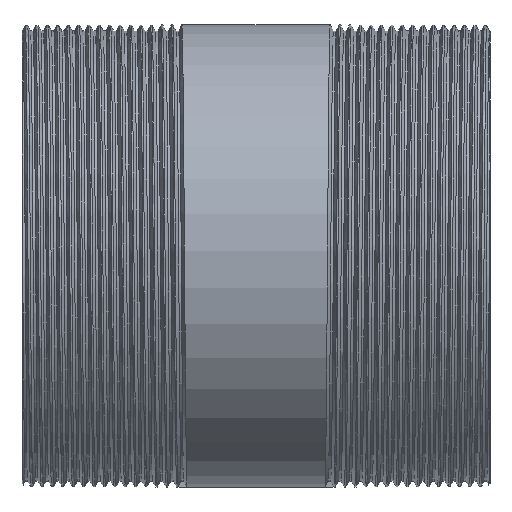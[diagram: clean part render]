
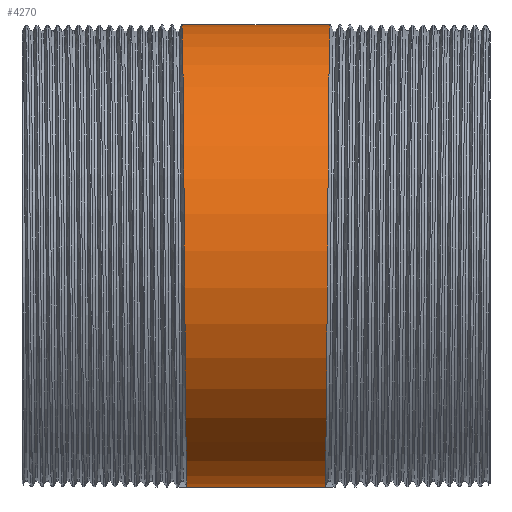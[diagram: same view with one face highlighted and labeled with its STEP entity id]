
A CAD part, front view. The second image highlights one B-rep face of the part: STEP entity #4270.
In plain terms, the highlighted cylindrical face has radius 44.45 mm (diameter 88.9 mm), a partial arc.
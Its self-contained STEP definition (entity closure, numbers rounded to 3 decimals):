
#500 = FACE_OUTER_BOUND ( 'NONE', #11437, .T. ) ;
#592 = CARTESIAN_POINT ( 'NONE',  ( 13.45, -26.127, -35.961 ) ) ;
#1292 = CARTESIAN_POINT ( 'NONE',  ( -13.85, -42.274, 13.736 ) ) ;
#1616 = CARTESIAN_POINT ( 'NONE',  ( -13.25, 0., -44.45 ) ) ;
#1781 = CARTESIAN_POINT ( 'NONE',  ( 14.05, -26.127, 35.961 ) ) ;
#1886 = DIRECTION ( 'NONE',  ( -1., 0., 0. ) ) ;
#2789 = ORIENTED_EDGE ( 'NONE', *, *, #5190, .T. ) ;
#2944 =( BOUNDED_CURVE ( )  B_SPLINE_CURVE ( 2, ( #9250, #12074, #592, #4301, #8147, #13092, #10733, #13254, #1781, #6658, #15694 ),
 .UNSPECIFIED., .F., .F. ) 
 B_SPLINE_CURVE_WITH_KNOTS ( ( 3, 2, 2, 2, 2, 3 ),
 ( 0., 0.006, 0.011, 0.017, 0.022, 0.028 ),
 .UNSPECIFIED. ) 
 CURVE ( )  GEOMETRIC_REPRESENTATION_ITEM ( )  RATIONAL_B_SPLINE_CURVE ( ( 1., 0.951, 1., 0.951, 1., 0.951, 1., 0.951, 1., 0.951, 1. ) ) 
 REPRESENTATION_ITEM ( '' )  );
#3106 = CYLINDRICAL_SURFACE ( 'NONE', #13884, 44.45 ) ;
#3183 = DIRECTION ( 'NONE',  ( -1., 0., 0. ) ) ;
#3377 = CARTESIAN_POINT ( 'NONE',  ( -149.494, 0., 44.45 ) ) ;
#3423 = DIRECTION ( 'NONE',  ( -1., 0., 0. ) ) ;
#3891 = CARTESIAN_POINT ( 'NONE',  ( -13.35, -14.443, -44.45 ) ) ;
#4140 = CARTESIAN_POINT ( 'NONE',  ( -14.25, 0., 44.45 ) ) ;
#4270 = ADVANCED_FACE ( 'NONE', ( #500 ), #3106, .T. ) ;
#4301 = CARTESIAN_POINT ( 'NONE',  ( 13.55, -37.811, -27.472 ) ) ;
#4847 = ORIENTED_EDGE ( 'NONE', *, *, #9976, .F. ) ;
#5190 = EDGE_CURVE ( 'NONE', #13774, #8443, #2944, .T. ) ;
#5211 =( BOUNDED_CURVE ( )  B_SPLINE_CURVE ( 2, ( #1616, #3891, #6730, #8921, #10332, #15451, #1292, #15613, #13012, #6656, #4140 ),
 .UNSPECIFIED., .F., .T. ) 
 B_SPLINE_CURVE_WITH_KNOTS ( ( 3, 2, 2, 2, 2, 3 ),
 ( 0., 0.006, 0.011, 0.017, 0.022, 0.028 ),
 .UNSPECIFIED. ) 
 CURVE ( )  GEOMETRIC_REPRESENTATION_ITEM ( )  RATIONAL_B_SPLINE_CURVE ( ( 1., 0.951, 1., 0.951, 1., 0.951, 1., 0.951, 1., 0.951, 1. ) ) 
 REPRESENTATION_ITEM ( '' )  );
#5651 = VERTEX_POINT ( 'NONE', #13050 ) ;
#6504 = VECTOR ( 'NONE', #1886, 1000. ) ;
#6656 = CARTESIAN_POINT ( 'NONE',  ( -14.15, -14.443, 44.45 ) ) ;
#6658 = CARTESIAN_POINT ( 'NONE',  ( 14.15, -14.443, 44.45 ) ) ;
#6730 = CARTESIAN_POINT ( 'NONE',  ( -13.45, -26.127, -35.961 ) ) ;
#7076 = LINE ( 'NONE', #3377, #6504 ) ;
#7208 = CARTESIAN_POINT ( 'NONE',  ( -149.494, 0., 0. ) ) ;
#8147 = CARTESIAN_POINT ( 'NONE',  ( 13.65, -42.274, -13.736 ) ) ;
#8443 = VERTEX_POINT ( 'NONE', #12235 ) ;
#8889 = LINE ( 'NONE', #15164, #11803 ) ;
#8921 = CARTESIAN_POINT ( 'NONE',  ( -13.55, -37.811, -27.472 ) ) ;
#9186 = CARTESIAN_POINT ( 'NONE',  ( -13.25, 0., -44.45 ) ) ;
#9250 = CARTESIAN_POINT ( 'NONE',  ( 13.25, 0., -44.45 ) ) ;
#9700 = ORIENTED_EDGE ( 'NONE', *, *, #14279, .F. ) ;
#9718 = DIRECTION ( 'NONE',  ( 0., 0., 1. ) ) ;
#9976 = EDGE_CURVE ( 'NONE', #13774, #12848, #8889, .T. ) ;
#10332 = CARTESIAN_POINT ( 'NONE',  ( -13.65, -42.274, -13.736 ) ) ;
#10733 = CARTESIAN_POINT ( 'NONE',  ( 13.85, -42.274, 13.736 ) ) ;
#11437 = EDGE_LOOP ( 'NONE', ( #4847, #2789, #13286, #9700 ) ) ;
#11803 = VECTOR ( 'NONE', #3423, 1000. ) ;
#12074 = CARTESIAN_POINT ( 'NONE',  ( 13.35, -14.443, -44.45 ) ) ;
#12235 = CARTESIAN_POINT ( 'NONE',  ( 14.25, 0., 44.45 ) ) ;
#12848 = VERTEX_POINT ( 'NONE', #9186 ) ;
#13012 = CARTESIAN_POINT ( 'NONE',  ( -14.05, -26.127, 35.961 ) ) ;
#13050 = CARTESIAN_POINT ( 'NONE',  ( -14.25, 0., 44.45 ) ) ;
#13092 = CARTESIAN_POINT ( 'NONE',  ( 13.75, -46.737, 0. ) ) ;
#13254 = CARTESIAN_POINT ( 'NONE',  ( 13.95, -37.811, 27.472 ) ) ;
#13286 = ORIENTED_EDGE ( 'NONE', *, *, #14907, .T. ) ;
#13774 = VERTEX_POINT ( 'NONE', #15041 ) ;
#13884 = AXIS2_PLACEMENT_3D ( 'NONE', #7208, #3183, #9718 ) ;
#14279 = EDGE_CURVE ( 'NONE', #12848, #5651, #5211, .T. ) ;
#14907 = EDGE_CURVE ( 'NONE', #8443, #5651, #7076, .T. ) ;
#15041 = CARTESIAN_POINT ( 'NONE',  ( 13.25, 0., -44.45 ) ) ;
#15164 = CARTESIAN_POINT ( 'NONE',  ( -149.494, 0., -44.45 ) ) ;
#15451 = CARTESIAN_POINT ( 'NONE',  ( -13.75, -46.737, 0. ) ) ;
#15613 = CARTESIAN_POINT ( 'NONE',  ( -13.95, -37.811, 27.472 ) ) ;
#15694 = CARTESIAN_POINT ( 'NONE',  ( 14.25, 0., 44.45 ) ) ;
